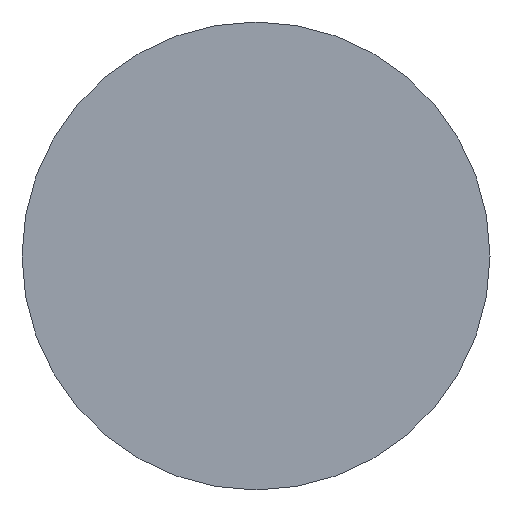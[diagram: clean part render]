
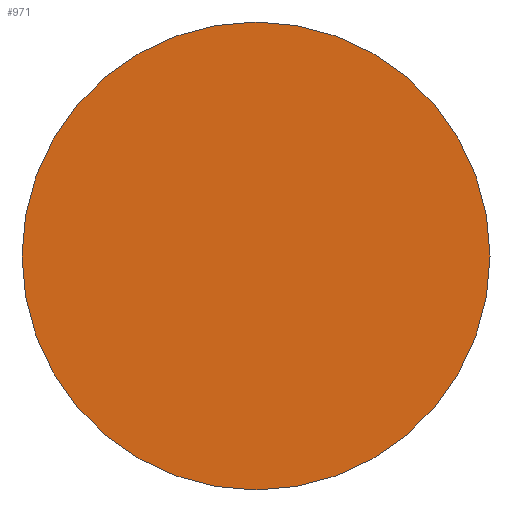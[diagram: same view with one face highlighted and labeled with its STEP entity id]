
A CAD part, front view. The second image highlights one B-rep face of the part: STEP entity #971.
In plain terms, the highlighted planar face has unit normal (0, -1, 0).
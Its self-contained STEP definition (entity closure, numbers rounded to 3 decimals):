
#244 = CARTESIAN_POINT ( 'NONE',  ( 41., -30., 0. ) ) ;
#393 = CIRCLE ( 'NONE', #2049, 41. ) ;
#394 = DIRECTION ( 'NONE',  ( 1., 0., 0. ) ) ;
#453 = DIRECTION ( 'NONE',  ( 1., 0., 0. ) ) ;
#693 = CARTESIAN_POINT ( 'NONE',  ( 41., -30., 0. ) ) ;
#847 = EDGE_CURVE ( 'NONE', #3095, #882, #2144, .T. ) ;
#882 = VERTEX_POINT ( 'NONE', #1752 ) ;
#891 = DIRECTION ( 'NONE',  ( 0., -1., 0. ) ) ;
#971 = ADVANCED_FACE ( 'NONE', ( #1279 ), #3195, .T. ) ;
#1279 = FACE_OUTER_BOUND ( 'NONE', #2057, .T. ) ;
#1508 = ORIENTED_EDGE ( 'NONE', *, *, #847, .T. ) ;
#1714 = CARTESIAN_POINT ( 'NONE',  ( 0., -30., 0. ) ) ;
#1752 = CARTESIAN_POINT ( 'NONE',  ( -41., -30., 0. ) ) ;
#2049 = AXIS2_PLACEMENT_3D ( 'NONE', #3450, #4104, #3790 ) ;
#2057 = EDGE_LOOP ( 'NONE', ( #1508, #3981 ) ) ;
#2144 = CIRCLE ( 'NONE', #2224, 41. ) ;
#2224 = AXIS2_PLACEMENT_3D ( 'NONE', #1714, #3343, #394 ) ;
#2760 = EDGE_CURVE ( 'NONE', #882, #3095, #393, .T. ) ;
#3095 = VERTEX_POINT ( 'NONE', #693 ) ;
#3195 = PLANE ( 'NONE',  #4135 ) ;
#3343 = DIRECTION ( 'NONE',  ( 0., -1., 0. ) ) ;
#3450 = CARTESIAN_POINT ( 'NONE',  ( 0., -30., 0. ) ) ;
#3790 = DIRECTION ( 'NONE',  ( 1., 0., 0. ) ) ;
#3981 = ORIENTED_EDGE ( 'NONE', *, *, #2760, .T. ) ;
#4104 = DIRECTION ( 'NONE',  ( 0., -1., 0. ) ) ;
#4135 = AXIS2_PLACEMENT_3D ( 'NONE', #244, #891, #453 ) ;
